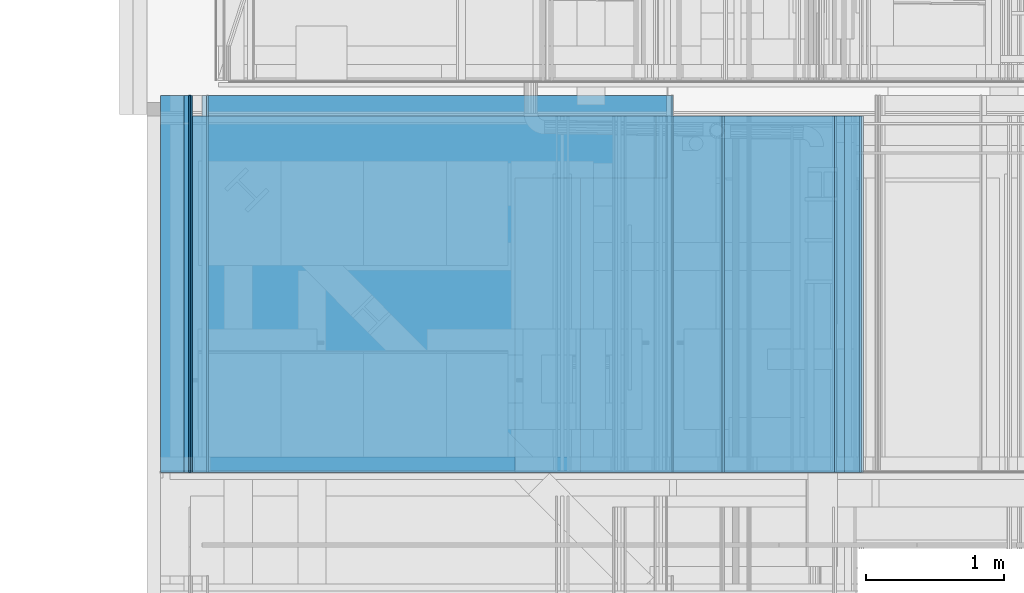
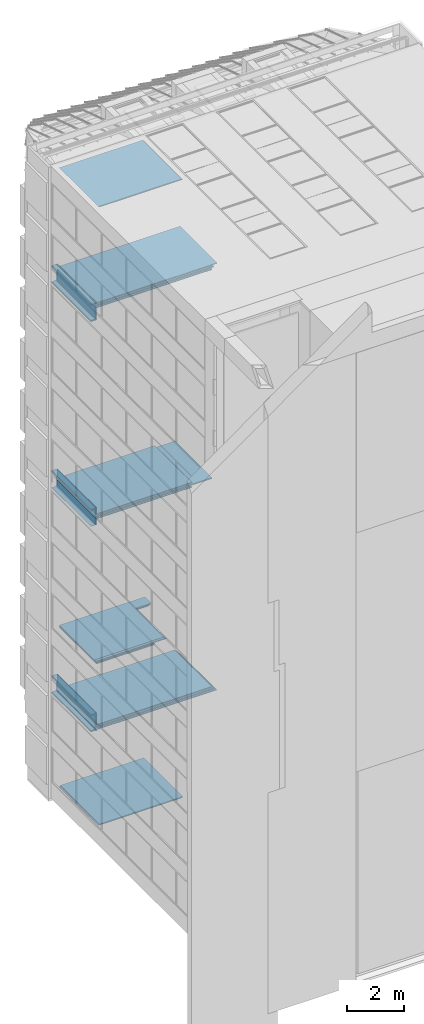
# One storey, part 84 of 583: 55 building element parts, 3 openings, 15 elements without a shape of their own.
"""IFC2X3 building model written with IfcOpenShell, lengths in metres."""

from ifc_helpers import new_model, entity, si_unit, converted_unit, derived_unit, money_unit, direction, frame, frame_2d, origin_with_axes, place, context, subcontext, project, spatial, polyline, rectangle, outline, extrude, material, type_object, element, aggregate, save


model = new_model("IFC2X3")

# Units and contexts
model_context = context("Model", 3, precision=1e-05, world=origin_with_axes(), true_north=direction((0.0, 1.0)))
body_context = subcontext(model_context, "Body", "Model", "MODEL_VIEW", scale=1.0)
ifc_project = project(units=[si_unit("LENGTHUNIT", "METRE"), si_unit("AREAUNIT", "SQUARE_METRE"), si_unit("VOLUMEUNIT", "CUBIC_METRE"), si_unit("ABSORBEDDOSEUNIT", "GRAY"), si_unit("AMOUNTOFSUBSTANCEUNIT", "MOLE"), si_unit("DOSEEQUIVALENTUNIT", "SIEVERT"), si_unit("ELECTRICCAPACITANCEUNIT", "FARAD"), si_unit("ELECTRICCHARGEUNIT", "COULOMB"), si_unit("ELECTRICCONDUCTANCEUNIT", "SIEMENS"), si_unit("ELECTRICCURRENTUNIT", "AMPERE"), si_unit("ELECTRICRESISTANCEUNIT", "OHM"), si_unit("ELECTRICVOLTAGEUNIT", "VOLT"), si_unit("ENERGYUNIT", "JOULE"), si_unit("FORCEUNIT", "NEWTON"), si_unit("FREQUENCYUNIT", "HERTZ"), si_unit("ILLUMINANCEUNIT", "LUX"), si_unit("INDUCTANCEUNIT", "HENRY"), si_unit("LUMINOUSFLUXUNIT", "LUMEN"), si_unit("LUMINOUSINTENSITYUNIT", "CANDELA"), si_unit("MAGNETICFLUXDENSITYUNIT", "TESLA"), si_unit("MAGNETICFLUXUNIT", "WEBER"), si_unit("MASSUNIT", "GRAM"), converted_unit("PLANEANGLEUNIT", "degree", entity("IfcReal", 0.0174532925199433), si_unit("PLANEANGLEUNIT", "RADIAN"), dimensions=[0, 0, 0, 0, 0, 0, 0]), si_unit("POWERUNIT", "WATT"), si_unit("PRESSUREUNIT", "PASCAL"), si_unit("RADIOACTIVITYUNIT", "BECQUEREL"), si_unit("SOLIDANGLEUNIT", "STERADIAN"), si_unit("THERMODYNAMICTEMPERATUREUNIT", "KELVIN"), si_unit("TIMEUNIT", "SECOND"), derived_unit("ACCELERATIONUNIT", [(si_unit("LENGTHUNIT", "METRE"), 1), (si_unit("TIMEUNIT", "SECOND"), -2)]), derived_unit("ANGULARVELOCITYUNIT", [(converted_unit("PLANEANGLEUNIT", "degree", entity("IfcReal", 0.0174532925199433), si_unit("PLANEANGLEUNIT", "RADIAN"), dimensions=[0, 0, 0, 0, 0, 0, 0]), 1), (si_unit("TIMEUNIT", "SECOND"), -1)]), derived_unit("CURVATUREUNIT", [(converted_unit("PLANEANGLEUNIT", "degree", entity("IfcReal", 0.0174532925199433), si_unit("PLANEANGLEUNIT", "RADIAN"), dimensions=[0, 0, 0, 0, 0, 0, 0]), 1), (si_unit("LENGTHUNIT", "METRE"), -1)]), derived_unit("DYNAMICVISCOSITYUNIT", [(si_unit("PRESSUREUNIT", "PASCAL"), 1), (si_unit("TIMEUNIT", "SECOND"), 1)]), derived_unit("HEATFLUXDENSITYUNIT", [(si_unit("POWERUNIT", "WATT"), 1), (si_unit("LENGTHUNIT", "METRE"), -2)]), derived_unit("HEATINGVALUEUNIT", [(si_unit("ENERGYUNIT", "JOULE"), 1), (si_unit("MASSUNIT", "GRAM"), -1)]), derived_unit("INTEGERCOUNTRATEUNIT", [(si_unit("TIMEUNIT", "SECOND"), -1)]), derived_unit("IONCONCENTRATIONUNIT", [(si_unit("MASSUNIT", "GRAM"), 1), (si_unit("VOLUMEUNIT", "CUBIC_METRE"), -1)]), derived_unit("ISOTHERMALMOISTURECAPACITYUNIT", [(si_unit("VOLUMEUNIT", "CUBIC_METRE"), 1), (si_unit("MASSUNIT", "GRAM"), -1)]), derived_unit("KINEMATICVISCOSITYUNIT", [(si_unit("AREAUNIT", "SQUARE_METRE"), 1), (si_unit("TIMEUNIT", "SECOND"), -1)]), derived_unit("LINEARFORCEUNIT", [(si_unit("FORCEUNIT", "NEWTON"), 1), (si_unit("LENGTHUNIT", "METRE"), -1)]), derived_unit("LINEARMOMENTUNIT", [(si_unit("FORCEUNIT", "NEWTON"), 1), (si_unit("LENGTHUNIT", "METRE"), -1)]), derived_unit("LINEARSTIFFNESSUNIT", [(si_unit("FORCEUNIT", "NEWTON"), 1), (si_unit("LENGTHUNIT", "METRE"), -1)]), derived_unit("LINEARVELOCITYUNIT", [(si_unit("LENGTHUNIT", "METRE"), 1), (si_unit("TIMEUNIT", "SECOND"), -1)]), derived_unit("LUMINOUSINTENSITYDISTRIBUTIONUNIT", [(si_unit("LUMINOUSINTENSITYUNIT", "CANDELA"), 1), (si_unit("LUMINOUSFLUXUNIT", "LUMEN"), -1)]), derived_unit("MASSDENSITYUNIT", [(si_unit("MASSUNIT", "GRAM"), 1), (si_unit("VOLUMEUNIT", "CUBIC_METRE"), -1)]), derived_unit("MASSFLOWRATEUNIT", [(si_unit("MASSUNIT", "GRAM"), 1), (si_unit("TIMEUNIT", "SECOND"), -1)]), derived_unit("MASSPERLENGTHUNIT", [(si_unit("MASSUNIT", "GRAM"), 1), (si_unit("LENGTHUNIT", "METRE"), -1)]), derived_unit("MODULUSOFELASTICITYUNIT", [(si_unit("FORCEUNIT", "NEWTON"), 1), (si_unit("AREAUNIT", "SQUARE_METRE"), -1)]), derived_unit("MODULUSOFLINEARSUBGRADEREACTIONUNIT", [(si_unit("FORCEUNIT", "NEWTON"), 1), (si_unit("LENGTHUNIT", "METRE"), -2)]), derived_unit("MODULUSOFROTATIONALSUBGRADEREACTIONUNIT", [(si_unit("FORCEUNIT", "NEWTON"), 1), (si_unit("LENGTHUNIT", "METRE"), 1)]), derived_unit("MODULUSOFSUBGRADEREACTIONUNIT", [(si_unit("FORCEUNIT", "NEWTON"), 1), (si_unit("VOLUMEUNIT", "CUBIC_METRE"), -1)]), derived_unit("MOISTUREDIFFUSIVITYUNIT", [(si_unit("VOLUMEUNIT", "CUBIC_METRE"), 1), (si_unit("TIMEUNIT", "SECOND"), -1)]), derived_unit("MOLECULARWEIGHTUNIT", [(si_unit("MASSUNIT", "GRAM"), 1), (si_unit("AMOUNTOFSUBSTANCEUNIT", "MOLE"), -1)]), derived_unit("PLANARFORCEUNIT", [(si_unit("FORCEUNIT", "NEWTON"), 1), (si_unit("LENGTHUNIT", "METRE"), -2)]), derived_unit("ROTATIONALFREQUENCYUNIT", [(si_unit("TIMEUNIT", "SECOND"), -1)]), derived_unit("ROTATIONALMASSUNIT", [(si_unit("MASSUNIT", "GRAM"), 1), (si_unit("LENGTHUNIT", "METRE"), 2)]), derived_unit("ROTATIONALSTIFFNESSUNIT", [(si_unit("FORCEUNIT", "NEWTON"), 1), (si_unit("LENGTHUNIT", "METRE"), 1), (converted_unit("PLANEANGLEUNIT", "degree", entity("IfcReal", 0.0174532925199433), si_unit("PLANEANGLEUNIT", "RADIAN"), dimensions=[0, 0, 0, 0, 0, 0, 0]), -1)]), derived_unit("SECTIONAREAINTEGRALUNIT", [(si_unit("LENGTHUNIT", "METRE"), 5)]), derived_unit("SECTIONMODULUSUNIT", [(si_unit("LENGTHUNIT", "METRE"), 3)]), derived_unit("SHEARMODULUSUNIT", [(si_unit("FORCEUNIT", "NEWTON"), 1), (si_unit("AREAUNIT", "SQUARE_METRE"), -1)]), derived_unit("SOUNDPOWERUNIT", [(si_unit("ENERGYUNIT", "JOULE"), 1), (si_unit("TIMEUNIT", "SECOND"), -1)]), derived_unit("SPECIFICHEATCAPACITYUNIT", [(si_unit("FORCEUNIT", "NEWTON"), 1), (si_unit("MASSUNIT", "GRAM"), -1), (si_unit("THERMODYNAMICTEMPERATUREUNIT", "KELVIN"), -1)]), derived_unit("TEMPERATUREGRADIENTUNIT", [(si_unit("THERMODYNAMICTEMPERATUREUNIT", "KELVIN"), 1), (si_unit("LENGTHUNIT", "METRE"), -1)]), derived_unit("THERMALADMITTANCEUNIT", [(si_unit("POWERUNIT", "WATT"), 1), (si_unit("AREAUNIT", "SQUARE_METRE"), -1), (si_unit("THERMODYNAMICTEMPERATUREUNIT", "KELVIN"), -1)]), derived_unit("THERMALCONDUCTANCEUNIT", [(si_unit("POWERUNIT", "WATT"), 1), (si_unit("LENGTHUNIT", "METRE"), -1), (si_unit("THERMODYNAMICTEMPERATUREUNIT", "KELVIN"), -1)]), derived_unit("THERMALEXPANSIONCOEFFICIENTUNIT", [(si_unit("THERMODYNAMICTEMPERATUREUNIT", "KELVIN"), -1)]), derived_unit("THERMALRESISTANCEUNIT", [(si_unit("AREAUNIT", "SQUARE_METRE"), 1), (si_unit("POWERUNIT", "WATT"), -1)]), derived_unit("THERMALTRANSMITTANCEUNIT", [(si_unit("POWERUNIT", "WATT"), 1), (si_unit("AREAUNIT", "SQUARE_METRE"), -1), (si_unit("THERMODYNAMICTEMPERATUREUNIT", "KELVIN"), -1)]), derived_unit("TORQUEUNIT", [(si_unit("FORCEUNIT", "NEWTON"), 1), (si_unit("LENGTHUNIT", "METRE"), 1)]), derived_unit("VAPORPERMEABILITYUNIT", [(si_unit("MASSUNIT", "GRAM"), 1), (si_unit("TIMEUNIT", "SECOND"), -1)]), derived_unit("VOLUMETRICFLOWRATEUNIT", [(si_unit("VOLUMEUNIT", "CUBIC_METRE"), 1), (si_unit("TIMEUNIT", "SECOND"), -1)]), derived_unit("WARPINGCONSTANTUNIT", [(si_unit("LENGTHUNIT", "METRE"), 6)]), derived_unit("WARPINGMOMENTUNIT", [(si_unit("FORCEUNIT", "NEWTON"), 1), (si_unit("LENGTHUNIT", "METRE"), 2)]), money_unit("GBP")], contexts=[model_context])

# Site, building, storey
site_placement = place(None, origin_with_axes())
site = spatial("IfcSite", under=ifc_project, at=site_placement, Name="Site", CompositionType="ELEMENT")
building_placement = place(site_placement, origin_with_axes())
building = spatial("IfcBuilding", under=site, at=building_placement, Name="Building01", CompositionType="ELEMENT")
storey_placement = place(building_placement, frame((0.0, 0.0, 20.78), z_axis=(0.0, 0.0, 1.0), x_axis=(1.0, 0.0, 0.0)))
storey = spatial("IfcBuildingStorey", under=building, at=storey_placement, Name="RL", CompositionType="ELEMENT", Elevation=20.78)

# Wall, building element parts
wall_type_1 = type_object("IfcWallType", Name="SHE_A-Walls_Type01c_Partywall_225mm_twin_tall", PredefinedType="NOTDEFINED")
wall_1_placement = place(storey_placement, frame((5.068, 12.13, 1.708), z_axis=(0.0, 1.0, 0.0), x_axis=(-1.0, 0.0, 0.0)))
wall_1 = element("IfcWall", 1, at=wall_1_placement, inside=storey, type_object=wall_type_1, Name="1C", ObjectType="SHE_A-Walls_Type01c_Partywall_225mm_twin_tall")
ifc_material_1 = material(Name="A_BSUK_Insulation")
placement_1 = place(wall_1_placement, origin_with_axes())
building_element_part_1 = element("IfcBuildingElementPart", 2, at=placement_1, material=ifc_material_1, Name="1", context=body_context, shape_type="SweptSolid", body=[
    extrude(rectangle(XDim=4.762, YDim=0.05, at=frame_2d((2.381, 0.025), x_axis=(-1.0, 0.0))), origin_with_axes(), (0.0, 0.0, 1.0), 2.59),
])
ifc_material_2 = material(Name="A_BSUK_WallInternal_Finishes_Plasterboard")
building_element_part_2 = element("IfcBuildingElementPart", 3, at=placement_1, material=ifc_material_2, Name="3", context=body_context, shape_type="SweptSolid", body=[
    extrude(outline(polyline([(-0.137, 0.137), (-0.122, 0.122), (4.735, 0.122), (4.735, 0.137), (-0.137, 0.137)])), origin_with_axes(), (0.0, 0.0, 1.0), 2.59),
])
building_element_part_3 = element("IfcBuildingElementPart", 4, at=placement_1, material=ifc_material_2, Name="4", context=body_context, shape_type="SweptSolid", body=[
    extrude(outline(polyline([(-0.122, 0.122), (-0.107, 0.107), (4.75, 0.107), (4.75, 0.122), (-0.122, 0.122)])), origin_with_axes(), (0.0, 0.0, 1.0), 2.59),
])
building_element_part_4 = element("IfcBuildingElementPart", 5, at=placement_1, material=ifc_material_2, Name="5", context=body_context, shape_type="SweptSolid", body=[
    extrude(outline(polyline([(4.75, -0.058), (0.058, -0.058), (0.073, -0.073), (4.75, -0.073), (4.75, -0.058)])), origin_with_axes(), (0.0, 0.0, 1.0), 2.59),
])
building_element_part_5 = element("IfcBuildingElementPart", 6, at=placement_1, material=ifc_material_2, Name="6", context=body_context, shape_type="SweptSolid", body=[
    extrude(outline(polyline([(4.735, -0.073), (0.073, -0.073), (0.088, -0.088), (4.735, -0.088), (4.735, -0.073)])), origin_with_axes(), (0.0, 0.0, 1.0), 2.59),
])
aggregate(wall_1, [building_element_part_1, building_element_part_2, building_element_part_3, building_element_part_4, building_element_part_5])

wall_type_2 = type_object("IfcWallType", Name="SHE_A-Walls_Type06d_ExternalWallInsulation_48mm", PredefinedType="NOTDEFINED")
wall_2_placement = place(storey_placement, frame((0.4, 12.13, 5.93), z_axis=(0.0, 1.0, 0.0), x_axis=(1.0, 0.0, 0.0)))
wall_2 = element("IfcWall", 7, at=wall_2_placement, inside=storey, type_object=wall_type_2, Name="6D", ObjectType="SHE_A-Walls_Type06d_ExternalWallInsulation_48mm")
placement_2 = place(wall_2_placement, origin_with_axes())
building_element_part_6 = element("IfcBuildingElementPart", 8, at=placement_2, material=ifc_material_1, Name="1", context=body_context, shape_type="SweptSolid", body=[
    extrude(outline(polyline([(3.41018, 0.036), (0.036, 0.036), (0.0, 0.0), (3.37418, 0.0), (3.41018, 0.036)])), origin_with_axes(), (0.0, 0.0, 1.0), 2.74),
])
building_element_part_7 = element("IfcBuildingElementPart", 9, at=placement_2, material=ifc_material_2, Name="3", context=body_context, shape_type="SweptSolid", body=[
    extrude(outline(polyline([(3.42218, 0.048), (0.048, 0.048), (0.035, 0.035), (3.40918, 0.035), (3.42218, 0.048)])), origin_with_axes(), (0.0, 0.0, 1.0), 2.74),
])
aggregate(wall_2, [building_element_part_6, building_element_part_7])

wall_3_placement = place(storey_placement, frame((4.995, 12.13, -7.2795), z_axis=(0.0, 1.0, 0.0), x_axis=(-1.0, 0.0, 0.0)))
wall_3 = element("IfcWall", 10, at=wall_3_placement, inside=storey, type_object=wall_type_1, Name="1C", ObjectType="SHE_A-Walls_Type01c_Partywall_225mm_twin_tall")
placement_3 = place(wall_3_placement, origin_with_axes())
building_element_part_8 = element("IfcBuildingElementPart", 11, at=placement_3, material=ifc_material_1, Name="1", context=body_context, shape_type="SweptSolid", body=[
    extrude(rectangle(XDim=4.689, YDim=0.05, at=frame_2d((2.3445, 0.0), x_axis=(-1.0, 0.0))), origin_with_axes(), (0.0, 0.0, 1.0), 2.59),
])
building_element_part_9 = element("IfcBuildingElementPart", 12, at=placement_3, material=ifc_material_2, Name="8", context=body_context, shape_type="SweptSolid", body=[
    extrude(rectangle(XDim=3.846428, YDim=0.015, at=frame_2d((2.738786, -0.1055), x_axis=(-1.0, 0.0))), origin_with_axes(), (0.0, 0.0, 1.0), 2.59),
])
building_element_part_10 = element("IfcBuildingElementPart", 13, at=placement_3, material=ifc_material_2, Name="9", context=body_context, shape_type="SweptSolid", body=[
    extrude(rectangle(XDim=3.876428, YDim=0.015, at=frame_2d((2.738786, -0.0905), x_axis=(-1.0, 0.0))), origin_with_axes(), (0.0, 0.0, 1.0), 2.59),
])
building_element_part_11 = element("IfcBuildingElementPart", 14, at=placement_3, material=ifc_material_2, Name="10", context=body_context, shape_type="SweptSolid", body=[
    extrude(rectangle(XDim=3.876428, YDim=0.015, at=frame_2d((2.738786, 0.0895), x_axis=(-1.0, 0.0))), origin_with_axes(), (0.0, 0.0, 1.0), 2.59),
])
building_element_part_12 = element("IfcBuildingElementPart", 15, at=placement_3, material=ifc_material_2, Name="11", context=body_context, shape_type="SweptSolid", body=[
    extrude(rectangle(XDim=0.015, YDim=3.846428, at=frame_2d((2.738786, 0.1045), x_axis=(0.0, -1.0))), origin_with_axes(), (0.0, 0.0, 1.0), 2.59),
])
aggregate(wall_3, [building_element_part_8, building_element_part_9, building_element_part_10, building_element_part_11, building_element_part_12])

wall_4_placement = place(storey_placement, frame((3.77418, 12.13, -20.51), z_axis=(0.0, 1.0, 0.0), x_axis=(-1.0, 0.0, 0.0)))
wall_4 = element("IfcWall", 16, at=wall_4_placement, inside=storey, type_object=wall_type_2, Name="6D", ObjectType="SHE_A-Walls_Type06d_ExternalWallInsulation_48mm")
placement_4 = place(wall_4_placement, origin_with_axes())
building_element_part_13 = element("IfcBuildingElementPart", 17, at=placement_4, material=ifc_material_1, Name="1", context=body_context, shape_type="SweptSolid", body=[
    extrude(outline(polyline([(3.33818, 0.036), (-0.036, 0.036), (0.0, 0.0), (3.37418, 0.0), (3.33818, 0.036)])), origin_with_axes(), (0.0, 0.0, 1.0), 2.74),
])
building_element_part_14 = element("IfcBuildingElementPart", 18, at=placement_4, material=ifc_material_2, Name="4", context=body_context, shape_type="SweptSolid", body=[
    extrude(outline(polyline([(3.32618, 0.048), (-0.048, 0.048), (-0.035, 0.035), (3.33918, 0.035), (3.32618, 0.048)])), origin_with_axes(), (0.0, 0.0, 1.0), 2.74),
])
aggregate(wall_4, [building_element_part_13, building_element_part_14])

wall_5_placement = place(storey_placement, frame((0.306, 12.13, -16.258), z_axis=(0.0, 1.0, 0.0), x_axis=(1.0, 0.0, 0.0)))
wall_5 = element("IfcWall", 19, at=wall_5_placement, inside=storey, type_object=wall_type_1, Name="1C", ObjectType="SHE_A-Walls_Type01c_Partywall_225mm_twin_tall")
placement_5 = place(wall_5_placement, origin_with_axes())
building_element_part_15 = element("IfcBuildingElementPart", 20, at=placement_5, material=ifc_material_1, Name="1", context=body_context, shape_type="SweptSolid", body=[
    extrude(rectangle(XDim=4.761, YDim=0.05, at=frame_2d((2.3805, 0.025), x_axis=(-1.0, 0.0))), origin_with_axes(), (0.0, 0.0, 1.0), 2.59),
])
building_element_part_16 = element("IfcBuildingElementPart", 21, at=placement_5, material=ifc_material_2, Name="3", context=body_context, shape_type="SweptSolid", body=[
    extrude(rectangle(XDim=4.857, YDim=0.015, at=frame_2d((2.4555, 0.1295), x_axis=(-1.0, 0.0))), origin_with_axes(), (0.0, 0.0, 1.0), 2.59),
])
building_element_part_17 = element("IfcBuildingElementPart", 22, at=placement_5, material=ifc_material_2, Name="4", context=body_context, shape_type="SweptSolid", body=[
    extrude(rectangle(XDim=4.857, YDim=0.015, at=frame_2d((2.4405, 0.1145), x_axis=(-1.0, 0.0))), origin_with_axes(), (0.0, 0.0, 1.0), 2.59),
])
building_element_part_18 = element("IfcBuildingElementPart", 23, at=placement_5, material=ifc_material_2, Name="5", context=body_context, shape_type="SweptSolid", body=[
    extrude(rectangle(XDim=4.677, YDim=0.015, at=frame_2d((2.3505, -0.0655), x_axis=(-1.0, 0.0))), origin_with_axes(), (0.0, 0.0, 1.0), 2.59),
])
building_element_part_19 = element("IfcBuildingElementPart", 24, at=placement_5, material=ifc_material_2, Name="6", context=body_context, shape_type="SweptSolid", body=[
    extrude(rectangle(XDim=4.647, YDim=0.015, at=frame_2d((2.3505, -0.0805), x_axis=(-1.0, 0.0))), origin_with_axes(), (0.0, 0.0, 1.0), 2.59),
])
aggregate(wall_5, [building_element_part_15, building_element_part_16, building_element_part_17, building_element_part_18, building_element_part_19])

# Wall, openings, building element parts
wall_type_3 = type_object("IfcWallType", Name="SHE_A-Walls_Type05a_Partition_95mm_tall", PredefinedType="NOTDEFINED")
wall_6_placement = place(storey_placement, frame((3.745, 12.13, -13.52), z_axis=(0.0, 1.0, 0.0), x_axis=(-1.0, 0.0, 0.0)))
wall_6 = element("IfcWall", 25, at=wall_6_placement, inside=storey, type_object=wall_type_3, Name="5A", ObjectType="SHE_A-Walls_Type05a_Partition_95mm_tall")
opening_1_placement = place(wall_6_placement, frame((-0.490781, 0.035, -0.015), z_axis=(0.0, 0.0, 1.0), x_axis=(1.0, 0.0, 0.0)))
element("IfcOpeningElement", 26, at=opening_1_placement, cuts=wall_6, Name="Opening", ObjectType="Opening", context=body_context, shape_type="SweptSolid", body=[
    extrude(rectangle(XDim=2.142, YDim=1.084, at=frame_2d((0.542, 1.071), x_axis=(0.0, -1.0))), frame((0.0, 0.09, 0.0), z_axis=(0.0, -1.0, 0.0), x_axis=(1.0, 0.0, 0.0)), (0.0, 0.0, 1.0), 0.18),
])
opening_2_placement = place(wall_6_placement, frame((-0.490781, -0.079, 0.0), z_axis=(0.0, 0.0, 1.0), x_axis=(1.0, 0.0, 0.0)))
element("IfcOpeningElement", 27, at=opening_2_placement, cuts=wall_6, Name="Opening", ObjectType="Opening", context=body_context, shape_type="SweptSolid", body=[
    extrude(rectangle(XDim=2.142, YDim=1.084, at=frame_2d((0.542, 1.071), x_axis=(0.0, -1.0))), frame((0.0, 0.1185, 0.0), z_axis=(0.0, -1.0, 0.0), x_axis=(1.0, 0.0, 0.0)), (0.0, 0.0, 1.0), 0.237),
])
opening_3_placement = place(wall_6_placement, frame((0.087, -0.06, 0.0), z_axis=(0.0, 0.0, 1.0), x_axis=(1.0, 0.0, 0.0)))
element("IfcOpeningElement", 28, at=opening_3_placement, cuts=wall_6, Name="Opening", ObjectType="Opening", context=body_context, shape_type="SweptSolid", body=[
    extrude(rectangle(XDim=2.142, YDim=0.984, at=frame_2d((0.492, 1.071), x_axis=(0.0, -1.0))), frame((0.0, 0.09, 0.0), z_axis=(0.0, -1.0, 0.0), x_axis=(1.0, 0.0, 0.0)), (0.0, 0.0, 1.0), 0.18),
])
placement_6 = place(wall_6_placement, origin_with_axes())
building_element_part_20 = element("IfcBuildingElementPart", 29, at=placement_6, material=ifc_material_1, Name="1", context=body_context, shape_type="SweptSolid", body=[
    extrude(rectangle(XDim=3.427, YDim=0.025, at=frame_2d((1.7135, -0.0125), x_axis=(-1.0, 0.0))), origin_with_axes(), (0.0, 0.0, 1.0), 2.59),
])
ifc_material_3 = material(Name="A_BSUK_Walls_Timber")
building_element_part_21 = element("IfcBuildingElementPart", 30, at=placement_6, material=ifc_material_3, Name="2", context=body_context, shape_type="SweptSolid", body=[
    extrude(outline(polyline([(3.412, -0.06), (0.06, -0.06), (0.075, -0.075), (3.412, -0.075), (3.412, -0.06)])), frame((0.0, 0.0, 0.015), z_axis=(0.0, 0.0, 1.0), x_axis=(1.0, 0.0, 0.0)), (0.0, 0.0, 1.0), 0.1),
])
building_element_part_22 = element("IfcBuildingElementPart", 31, at=placement_6, material=ifc_material_3, Name="3", context=body_context, shape_type="SweptSolid", body=[
    extrude(outline(polyline([(3.412, 0.05), (-0.05, 0.05), (-0.035, 0.035), (3.412, 0.035), (3.412, 0.05)])), frame((0.0, 0.0, 0.015), z_axis=(0.0, 0.0, 1.0), x_axis=(1.0, 0.0, 0.0)), (0.0, 0.0, 1.0), 0.1),
])
building_element_part_23 = element("IfcBuildingElementPart", 32, at=placement_6, material=ifc_material_2, Name="4", context=body_context, shape_type="SweptSolid", body=[
    extrude(outline(polyline([(3.427, -0.048), (0.048, -0.048), (0.06, -0.06), (3.427, -0.06), (3.427, -0.048)])), origin_with_axes(), (0.0, 0.0, 1.0), 2.59),
])
building_element_part_24 = element("IfcBuildingElementPart", 33, at=placement_6, material=ifc_material_2, Name="5", context=body_context, shape_type="SweptSolid", body=[
    extrude(outline(polyline([(3.427, 0.035), (-0.035, 0.035), (-0.023, 0.023), (3.427, 0.023), (3.427, 0.035)])), origin_with_axes(), (0.0, 0.0, 1.0), 2.59),
])
aggregate(wall_6, [building_element_part_20, building_element_part_21, building_element_part_22, building_element_part_23, building_element_part_24])

# Wall, building element part
wall_type_4 = type_object("IfcWallType", Name="SHE_A-Walls_Type06f_ExternalWallInsulation_48+15mm", PredefinedType="NOTDEFINED")
wall_7_placement = place(storey_placement, frame((0.1, 12.13, -7.587), z_axis=(0.0, 1.0, 0.0), x_axis=(-1.0, 0.0, 0.0)))
wall_7 = element("IfcWall", 34, at=wall_7_placement, inside=storey, type_object=wall_type_4, Name="6F", ObjectType="SHE_A-Walls_Type06f_ExternalWallInsulation_48+15mm")
building_element_part_25_placement = place(wall_7_placement, origin_with_axes())
building_element_part_25 = element("IfcBuildingElementPart", 35, at=building_element_part_25_placement, material=ifc_material_2, Name="4", context=body_context, shape_type="SweptSolid", body=[
    extrude(rectangle(XDim=0.206, YDim=0.012, at=frame_2d((-0.103, -0.042), x_axis=(1.0, 0.0))), origin_with_axes(), (0.0, 0.0, 1.0), 2.74),
])
aggregate(wall_7, [building_element_part_25])

# Wall, building element parts
wall_8_placement = place(storey_placement, frame((0.1, 12.13, -6.962876), z_axis=(0.0, 1.0, 0.0), x_axis=(-1.0, 0.0, 0.0)))
wall_8 = element("IfcWall", 36, at=wall_8_placement, inside=storey, type_object=wall_type_4, Name="6F", ObjectType="SHE_A-Walls_Type06f_ExternalWallInsulation_48+15mm")
placement_7 = place(wall_8_placement, origin_with_axes())
building_element_part_26 = element("IfcBuildingElementPart", 37, at=placement_7, material=ifc_material_1, Name="1", context=body_context, shape_type="SweptSolid", body=[
    extrude(rectangle(XDim=0.17, YDim=0.036, at=frame_2d((-0.085, 0.018), x_axis=(1.0, 0.0))), origin_with_axes(), (0.0, 0.0, 1.0), 2.74),
])
building_element_part_27 = element("IfcBuildingElementPart", 38, at=placement_7, material=ifc_material_2, Name="3", context=body_context, shape_type="SweptSolid", body=[
    extrude(outline(polyline([(-0.218, 0.048), (0.0, 0.048), (0.0, 0.063), (-0.233, 0.063), (-0.218, 0.048)])), origin_with_axes(), (0.0, 0.0, 1.0), 2.74),
])
building_element_part_28 = element("IfcBuildingElementPart", 39, at=placement_7, material=ifc_material_2, Name="4", context=body_context, shape_type="SweptSolid", body=[
    extrude(rectangle(XDim=0.206, YDim=0.012, at=frame_2d((-0.103, 0.042), x_axis=(1.0, 0.0))), origin_with_axes(), (0.0, 0.0, 1.0), 2.74),
])
aggregate(wall_8, [building_element_part_26, building_element_part_27, building_element_part_28])

wall_9_placement = place(storey_placement, frame((0.1, 12.13, 1.173), z_axis=(0.0, 1.0, 0.0), x_axis=(-1.0, 0.0, 0.0)))
wall_9 = element("IfcWall", 40, at=wall_9_placement, inside=storey, type_object=wall_type_4, Name="6F", ObjectType="SHE_A-Walls_Type06f_ExternalWallInsulation_48+15mm")
placement_8 = place(wall_9_placement, origin_with_axes())
building_element_part_29 = element("IfcBuildingElementPart", 41, at=placement_8, material=ifc_material_1, Name="1", context=body_context, shape_type="SweptSolid", body=[
    extrude(rectangle(XDim=0.17, YDim=0.036, at=frame_2d((-0.085, -0.018), x_axis=(1.0, 0.0))), origin_with_axes(), (0.0, 0.0, 1.0), 2.74),
])
building_element_part_30 = element("IfcBuildingElementPart", 42, at=placement_8, material=ifc_material_2, Name="3", context=body_context, shape_type="SweptSolid", body=[
    extrude(outline(polyline([(-0.233, -0.063), (0.0, -0.063), (0.0, -0.048), (-0.218, -0.048), (-0.233, -0.063)])), origin_with_axes(), (0.0, 0.0, 1.0), 2.74),
])
building_element_part_31 = element("IfcBuildingElementPart", 43, at=placement_8, material=ifc_material_2, Name="4", context=body_context, shape_type="SweptSolid", body=[
    extrude(rectangle(XDim=0.206, YDim=0.012, at=frame_2d((-0.103, -0.042), x_axis=(1.0, 0.0))), origin_with_axes(), (0.0, 0.0, 1.0), 2.74),
])
aggregate(wall_9, [building_element_part_29, building_element_part_30, building_element_part_31])

wall_10_placement = place(storey_placement, frame((0.1, 12.13, 1.797124), z_axis=(0.0, 1.0, 0.0), x_axis=(-1.0, 0.0, 0.0)))
wall_10 = element("IfcWall", 44, at=wall_10_placement, inside=storey, type_object=wall_type_4, Name="6F", ObjectType="SHE_A-Walls_Type06f_ExternalWallInsulation_48+15mm")
placement_9 = place(wall_10_placement, origin_with_axes())
building_element_part_32 = element("IfcBuildingElementPart", 45, at=placement_9, material=ifc_material_1, Name="1", context=body_context, shape_type="SweptSolid", body=[
    extrude(rectangle(XDim=0.17, YDim=0.036, at=frame_2d((-0.085, 0.018), x_axis=(1.0, 0.0))), origin_with_axes(), (0.0, 0.0, 1.0), 2.74),
])
building_element_part_33 = element("IfcBuildingElementPart", 46, at=placement_9, material=ifc_material_2, Name="3", context=body_context, shape_type="SweptSolid", body=[
    extrude(outline(polyline([(-0.218, 0.048), (0.0, 0.048), (0.0, 0.063), (-0.233, 0.063), (-0.218, 0.048)])), origin_with_axes(), (0.0, 0.0, 1.0), 2.74),
])
building_element_part_34 = element("IfcBuildingElementPart", 47, at=placement_9, material=ifc_material_2, Name="4", context=body_context, shape_type="SweptSolid", body=[
    extrude(rectangle(XDim=0.206, YDim=0.012, at=frame_2d((-0.103, 0.042), x_axis=(1.0, 0.0))), origin_with_axes(), (0.0, 0.0, 1.0), 2.74),
])
aggregate(wall_10, [building_element_part_32, building_element_part_33, building_element_part_34])

wall_11_placement = place(storey_placement, frame((0.1, 12.13, -16.347), z_axis=(0.0, 1.0, 0.0), x_axis=(-1.0, 0.0, 0.0)))
wall_11 = element("IfcWall", 48, at=wall_11_placement, inside=storey, type_object=wall_type_4, Name="6F", ObjectType="SHE_A-Walls_Type06f_ExternalWallInsulation_48+15mm")
placement_10 = place(wall_11_placement, origin_with_axes())
building_element_part_35 = element("IfcBuildingElementPart", 49, at=placement_10, material=ifc_material_1, Name="1", context=body_context, shape_type="SweptSolid", body=[
    extrude(rectangle(XDim=0.17, YDim=0.036, at=frame_2d((-0.085, -0.018), x_axis=(1.0, 0.0))), origin_with_axes(), (0.0, 0.0, 1.0), 2.74),
])
building_element_part_36 = element("IfcBuildingElementPart", 50, at=placement_10, material=ifc_material_2, Name="3", context=body_context, shape_type="SweptSolid", body=[
    extrude(outline(polyline([(-0.233, -0.063), (0.0, -0.063), (0.0, -0.048), (-0.218, -0.048), (-0.233, -0.063)])), origin_with_axes(), (0.0, 0.0, 1.0), 2.74),
])
building_element_part_37 = element("IfcBuildingElementPart", 51, at=placement_10, material=ifc_material_2, Name="4", context=body_context, shape_type="SweptSolid", body=[
    extrude(rectangle(XDim=0.206, YDim=0.012, at=frame_2d((-0.103, -0.042), x_axis=(1.0, 0.0))), origin_with_axes(), (0.0, 0.0, 1.0), 2.74),
])
aggregate(wall_11, [building_element_part_35, building_element_part_36, building_element_part_37])

wall_12_placement = place(storey_placement, frame((0.1, 12.13, -15.722876), z_axis=(0.0, 1.0, 0.0), x_axis=(-1.0, 0.0, 0.0)))
wall_12 = element("IfcWall", 52, at=wall_12_placement, inside=storey, type_object=wall_type_4, Name="6F", ObjectType="SHE_A-Walls_Type06f_ExternalWallInsulation_48+15mm")
placement_11 = place(wall_12_placement, origin_with_axes())
building_element_part_38 = element("IfcBuildingElementPart", 53, at=placement_11, material=ifc_material_1, Name="1", context=body_context, shape_type="SweptSolid", body=[
    extrude(rectangle(XDim=0.17, YDim=0.036, at=frame_2d((-0.085, 0.018), x_axis=(1.0, 0.0))), origin_with_axes(), (0.0, 0.0, 1.0), 2.74),
])
building_element_part_39 = element("IfcBuildingElementPart", 54, at=placement_11, material=ifc_material_2, Name="3", context=body_context, shape_type="SweptSolid", body=[
    extrude(outline(polyline([(-0.218, 0.048), (0.0, 0.048), (0.0, 0.063), (-0.233, 0.063), (-0.218, 0.048)])), origin_with_axes(), (0.0, 0.0, 1.0), 2.74),
])
building_element_part_40 = element("IfcBuildingElementPart", 55, at=placement_11, material=ifc_material_2, Name="4", context=body_context, shape_type="SweptSolid", body=[
    extrude(rectangle(XDim=0.206, YDim=0.012, at=frame_2d((-0.103, 0.042), x_axis=(1.0, 0.0))), origin_with_axes(), (0.0, 0.0, 1.0), 2.74),
])
aggregate(wall_12, [building_element_part_38, building_element_part_39, building_element_part_40])

wall_13_placement = place(storey_placement, frame((0.27, 12.13, 1.833124), z_axis=(0.0, 1.0, 0.0), x_axis=(0.0, 0.0, -1.0)))
wall_13 = element("IfcWall", 56, at=wall_13_placement, inside=storey, type_object=wall_type_4, Name="6F", ObjectType="SHE_A-Walls_Type06f_ExternalWallInsulation_48+15mm")
placement_12 = place(wall_13_placement, origin_with_axes())
building_element_part_41 = element("IfcBuildingElementPart", 57, at=placement_12, material=ifc_material_1, Name="1", context=body_context, shape_type="SweptSolid", body=[
    extrude(rectangle(XDim=0.696124, YDim=0.036, at=frame_2d((0.348062, -0.018), x_axis=(-1.0, 0.0))), origin_with_axes(), (0.0, 0.0, 1.0), 2.74),
])
building_element_part_42 = element("IfcBuildingElementPart", 58, at=placement_12, material=ifc_material_2, Name="3", context=body_context, shape_type="SweptSolid", body=[
    extrude(outline(polyline([(-0.012, -0.048), (-0.027, -0.063), (0.003124, -0.063), (0.003124, -0.048), (-0.012, -0.048)])), origin_with_axes(), (0.0, 0.0, 1.0), 2.74),
])
building_element_part_43 = element("IfcBuildingElementPart", 59, at=placement_12, material=ifc_material_2, Name="5", context=body_context, shape_type="SweptSolid", body=[
    extrude(outline(polyline([(0.708124, -0.048), (0.198124, -0.048), (0.198124, -0.063), (0.723124, -0.063), (0.708124, -0.048)])), origin_with_axes(), (0.0, 0.0, 1.0), 2.74),
])
building_element_part_44 = element("IfcBuildingElementPart", 60, at=placement_12, material=ifc_material_2, Name="6", context=body_context, shape_type="SweptSolid", body=[
    extrude(rectangle(XDim=0.012, YDim=0.030124, at=frame_2d((0.003062, -0.042), x_axis=(0.0, -1.0))), origin_with_axes(), (0.0, 0.0, 1.0), 2.74),
])
building_element_part_45 = element("IfcBuildingElementPart", 61, at=placement_12, material=ifc_material_2, Name="7", context=body_context, shape_type="SweptSolid", body=[
    extrude(rectangle(XDim=0.525, YDim=0.012, at=frame_2d((0.445624, -0.042), x_axis=(-1.0, 0.0))), origin_with_axes(), (0.0, 0.0, 1.0), 2.74),
])
aggregate(wall_13, [building_element_part_41, building_element_part_42, building_element_part_43, building_element_part_44, building_element_part_45])

wall_14_placement = place(storey_placement, frame((0.27, 12.13, -6.926876), z_axis=(0.0, 1.0, 0.0), x_axis=(0.0, 0.0, -1.0)))
wall_14 = element("IfcWall", 62, at=wall_14_placement, inside=storey, type_object=wall_type_4, Name="6F", ObjectType="SHE_A-Walls_Type06f_ExternalWallInsulation_48+15mm")
placement_13 = place(wall_14_placement, origin_with_axes())
building_element_part_46 = element("IfcBuildingElementPart", 63, at=placement_13, material=ifc_material_1, Name="1", context=body_context, shape_type="SweptSolid", body=[
    extrude(rectangle(XDim=0.696124, YDim=0.036, at=frame_2d((0.348062, -0.018), x_axis=(-1.0, 0.0))), origin_with_axes(), (0.0, 0.0, 1.0), 2.74),
])
building_element_part_47 = element("IfcBuildingElementPart", 64, at=placement_13, material=ifc_material_2, Name="3", context=body_context, shape_type="SweptSolid", body=[
    extrude(outline(polyline([(-0.012, -0.048), (-0.027, -0.063), (0.255624, -0.063), (0.255624, -0.048), (-0.012, -0.048)])), origin_with_axes(), (0.0, 0.0, 1.0), 2.74),
])
building_element_part_48 = element("IfcBuildingElementPart", 65, at=placement_13, material=ifc_material_2, Name="5", context=body_context, shape_type="SweptSolid", body=[
    extrude(outline(polyline([(0.708124, -0.048), (0.450624, -0.048), (0.450624, -0.063), (0.723124, -0.063), (0.708124, -0.048)])), origin_with_axes(), (0.0, 0.0, 1.0), 2.74),
])
building_element_part_49 = element("IfcBuildingElementPart", 66, at=placement_13, material=ifc_material_2, Name="6", context=body_context, shape_type="SweptSolid", body=[
    extrude(rectangle(XDim=0.012, YDim=0.282624, at=frame_2d((0.129312, -0.042), x_axis=(0.0, -1.0))), origin_with_axes(), (0.0, 0.0, 1.0), 2.74),
])
building_element_part_50 = element("IfcBuildingElementPart", 67, at=placement_13, material=ifc_material_2, Name="7", context=body_context, shape_type="SweptSolid", body=[
    extrude(rectangle(XDim=0.2725, YDim=0.012, at=frame_2d((0.571874, -0.042), x_axis=(-1.0, 0.0))), origin_with_axes(), (0.0, 0.0, 1.0), 2.74),
])
aggregate(wall_14, [building_element_part_46, building_element_part_47, building_element_part_48, building_element_part_49, building_element_part_50])

wall_15_placement = place(storey_placement, frame((0.27, 12.13, -15.686876), z_axis=(0.0, 1.0, 0.0), x_axis=(0.0, 0.0, -1.0)))
wall_15 = element("IfcWall", 68, at=wall_15_placement, inside=storey, type_object=wall_type_4, Name="6F", ObjectType="SHE_A-Walls_Type06f_ExternalWallInsulation_48+15mm")
placement_14 = place(wall_15_placement, origin_with_axes())
building_element_part_51 = element("IfcBuildingElementPart", 69, at=placement_14, material=ifc_material_1, Name="1", context=body_context, shape_type="SweptSolid", body=[
    extrude(rectangle(XDim=0.696124, YDim=0.036, at=frame_2d((0.348062, -0.018), x_axis=(-1.0, 0.0))), origin_with_axes(), (0.0, 0.0, 1.0), 2.74),
])
building_element_part_52 = element("IfcBuildingElementPart", 70, at=placement_14, material=ifc_material_2, Name="3", context=body_context, shape_type="SweptSolid", body=[
    extrude(outline(polyline([(0.498124, -0.048), (-0.012, -0.048), (-0.027, -0.063), (0.498124, -0.063), (0.498124, -0.048)])), origin_with_axes(), (0.0, 0.0, 1.0), 2.74),
])
building_element_part_53 = element("IfcBuildingElementPart", 71, at=placement_14, material=ifc_material_2, Name="5", context=body_context, shape_type="SweptSolid", body=[
    extrude(outline(polyline([(0.708124, -0.048), (0.693124, -0.048), (0.693124, -0.063), (0.723124, -0.063), (0.708124, -0.048)])), origin_with_axes(), (0.0, 0.0, 1.0), 2.74),
])
building_element_part_54 = element("IfcBuildingElementPart", 72, at=placement_14, material=ifc_material_2, Name="6", context=body_context, shape_type="SweptSolid", body=[
    extrude(rectangle(XDim=0.525124, YDim=0.012, at=frame_2d((0.250562, -0.042), x_axis=(-1.0, 0.0))), origin_with_axes(), (0.0, 0.0, 1.0), 2.74),
])
building_element_part_55 = element("IfcBuildingElementPart", 73, at=placement_14, material=ifc_material_2, Name="7", context=body_context, shape_type="SweptSolid", body=[
    extrude(rectangle(XDim=0.03, YDim=0.012, at=frame_2d((0.693124, -0.042), x_axis=(-1.0, 0.0))), origin_with_axes(), (0.0, 0.0, 1.0), 2.74),
])
aggregate(wall_15, [building_element_part_51, building_element_part_52, building_element_part_53, building_element_part_54, building_element_part_55])

save(model, "model.ifc")
